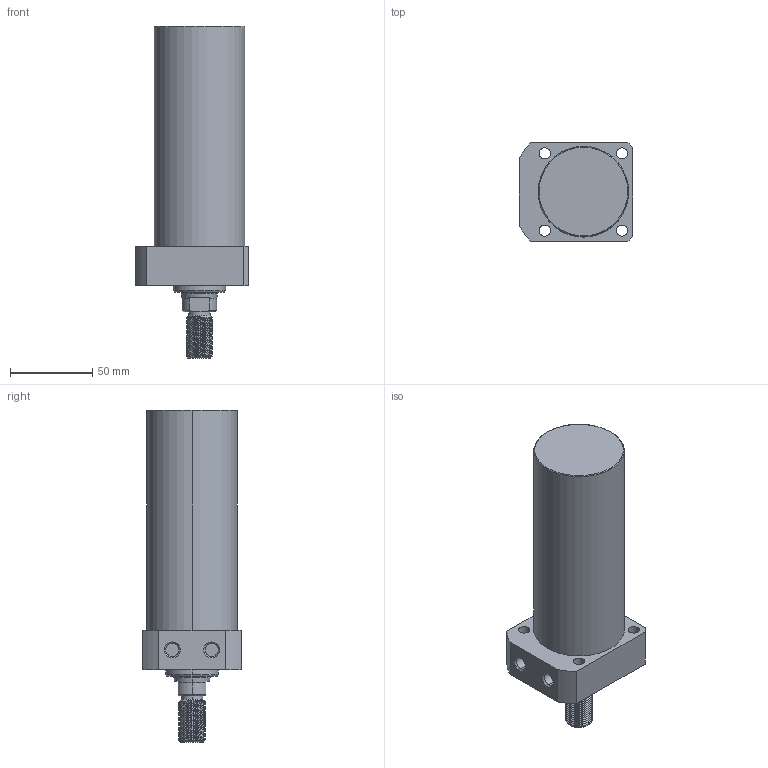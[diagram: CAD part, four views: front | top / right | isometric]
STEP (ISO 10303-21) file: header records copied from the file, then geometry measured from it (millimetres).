
FILE_DESCRIPTION (( 'STEP AP214' ), '1' );
FILE_NAME ('CLLR-055CT-105.STEP', '2020-01-10T00:51:45', ( 'Windows' ), ( 'Microsoft' ), 'SwSTEP 2.0', 'SolidWorks 2015', '' );
FILE_SCHEMA (( 'AUTOMOTIVE_DESIGN' ));
Length unit declared in the file: millimetre
Products named in the file (1): CLLR-055CT-105
Bounding box: 69 x 60 x 202 mm (x, y, z)
Volume: 423178.2 mm3; surface area: 42874.5 mm2
Topology: 1 solids, 1 shells, 101 faces, 259 edges, 168 vertices
Faces by surface type: cylinder 62, plane 20, cone 15, torus 2, bspline 2
Entity records: 5007 total; most frequent: CARTESIAN_POINT 2617, ORIENTED_EDGE 518, DIRECTION 458, EDGE_CURVE 259, AXIS2_PLACEMENT_3D 180, VERTEX_POINT 168, EDGE_LOOP 117, FACE_OUTER_BOUND 101
